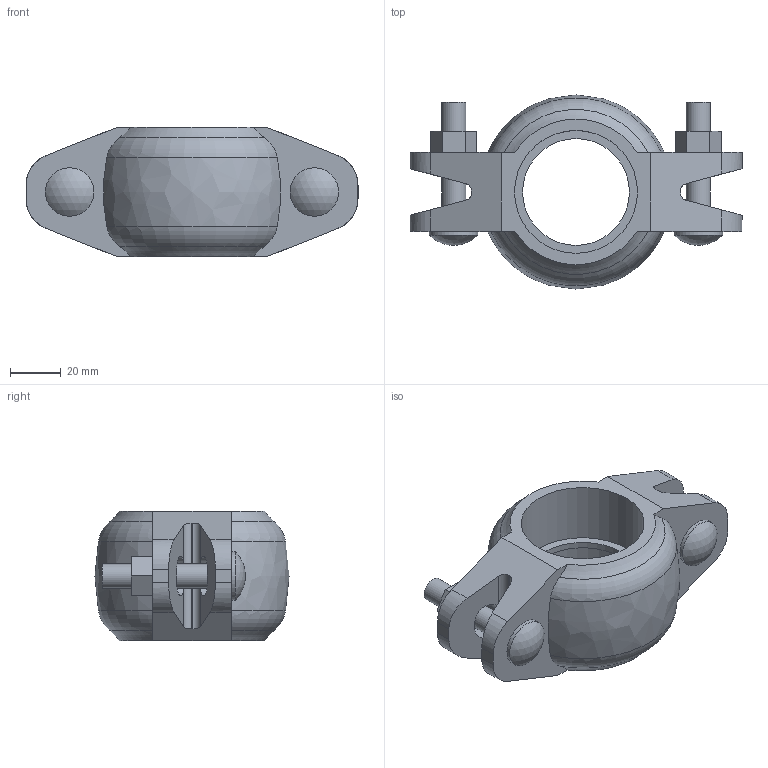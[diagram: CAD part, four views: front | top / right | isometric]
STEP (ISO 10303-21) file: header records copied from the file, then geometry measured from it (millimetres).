
FILE_DESCRIPTION(/* description */ ('VICTAULIC STYLE 009N FIRELOCK EZ RIGID COUPLING','CAx-IF Rec.Pracs.---Representation and Presentation of Product Manufacturing Information (PMI)---4.0---2014-10-13'),/* implementation_level */ '2;1');
FILE_NAME(/* name */ 'C:\Users\Vjadhav\AppData\Roaming\Autodesk\ApplicationPlugins\Victaulic.Temp\A361\Victaulic_FP-FireLock_Coupling Rigid_IR_Style 009N (OGS)_1.5 (40).stp',/* time_stamp */ '2022-03-23T18:54:25+05:00',/* author */ ('Vjadhav'),/* organization */ ('Victaulic'),/* preprocessor_version */ 'ST-DEVELOPER v17.2',/* originating_system */ 'Autodesk Inventor 2019',/* authorisation */ '');
FILE_SCHEMA (('AP242_MANAGED_MODEL_BASED_3D_ENGINEERING_MIM_LF { 1 0 10303 442 1 1 4 }'));
Length unit declared in the file: inch
Products named in the file (2): 009N-01.5; 009N-01.5_1
Assembly tree (1 placements, depth 2):
  009N-01.5
    009N-01.5_1
Bounding box: 130.3 x 76.2 x 50.8 mm (x, y, z)
Volume: 165398.4 mm3; surface area: 36631.4 mm2
Topology: 1 solids, 1 shells, 91 faces, 263 edges, 178 vertices
Faces by surface type: plane 50, cylinder 29, torus 8, sphere 2, bspline 2
Full cylindrical faces by diameter (mm): 9.525 x4, 19.05 x2, 41.91 x1, 48.26 x2
Entity records: 3391 total; most frequent: CARTESIAN_POINT 767, ORIENTED_EDGE 526, DIRECTION 505, EDGE_CURVE 263, VERTEX_POINT 178, AXIS2_PLACEMENT_3D 178, LINE 149, VECTOR 149
